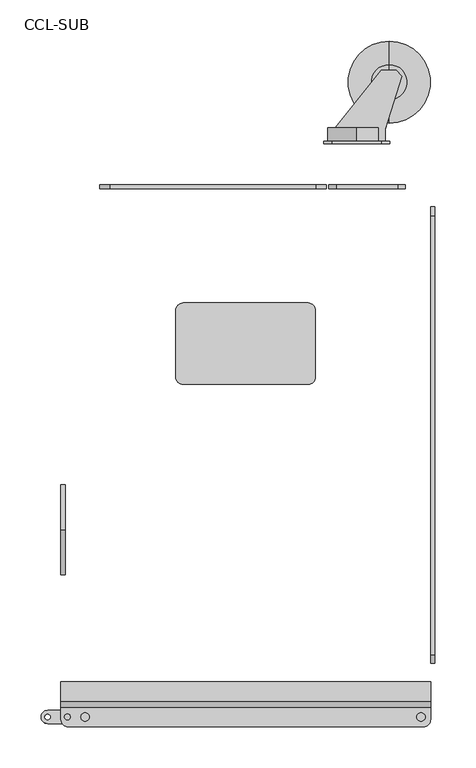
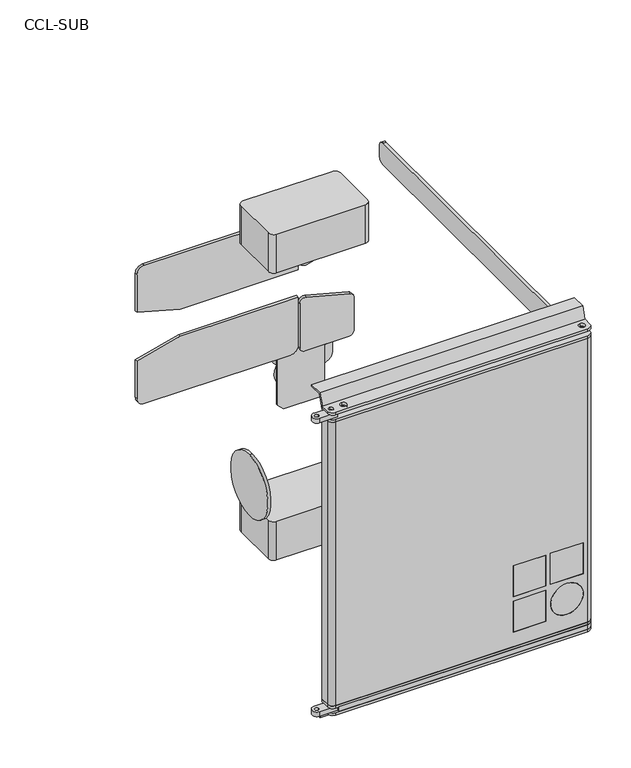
"""IFC4 building model written with IfcOpenShell, lengths in millimetres: proxy geometry, d&b CL-Series CCL-SUB : CCL-SUB."""

from ifc_helpers import new_model, si_unit, point, frame, frame_2d, origin, place, context, project, spatial, polyline, circle_curve, trimmed, segment, composite_curve, outline, extrude, source, transform, mapped, element, save
from ifc_brep_helpers import plane_surface, cylinder_surface, revolved_surface, advanced_brep


def ccl_sub_f0981f6c(model_context):
    return source(origin(), model_context, "Body", "SolidModel", [
        advanced_brep(
        [(2635.000038, 668.4505973, 104.6771383), (2635.000038, 668.4505973, 174.6771383), (2661.3818499, 668.4505973, 162.6771383), (2608.9218509, 668.4505973, 162.6771383), (2608.9218509, 668.4505973, 159.6771383), (2663.7228512, 668.4505973, 159.6771383), (2663.7228512, 668.4505973, 119.6771383), (2608.9218509, 668.4505973, 119.6771383), (2608.9218509, 668.4505973, 116.6771383), (2661.3818499, 668.4505973, 116.6771383), (2635.000038, 652.4505973, 174.6771383), (2635.000038, 652.4505973, 104.6771383), (2661.3818499, 652.4505973, 116.6771383), (2669.82476, 652.4505973, 116.6771383), (2669.82476, 652.4505973, 119.6771383), (2663.7228512, 652.4505973, 119.6771383), (2663.7228512, 652.4505973, 159.6771383), (2669.82476, 652.4505973, 159.6771383), (2669.82476, 652.4505973, 162.6771383), (2661.3818499, 652.4505973, 162.6771383), (2664.8735756, 738.6505973, 116.6771383), (2683.000038, 738.6505973, 116.6771383), (2690.000038, 731.6505973, 116.6771383), (2669.82476, 667.1505973, 116.6771383), (2669.82476, 667.1505973, 119.6771383), (2690.000038, 731.6505973, 119.6771383), (2683.000038, 738.6505973, 119.6771383), (2664.8735756, 738.6505973, 119.6771383), (2669.82476, 667.1505973, 162.6771383), (2690.000038, 731.6505973, 162.6771383), (2683.000038, 738.6505973, 162.6771383), (2664.8735756, 738.6505973, 162.6771383), (2664.8735756, 738.6505973, 159.6771383), (2683.000038, 738.6505973, 159.6771383), (2690.000038, 731.6505973, 159.6771383), (2669.82476, 667.1505973, 159.6771383)],
        [
            (0, 1, circle_curve(frame((2635.000038, 668.4505973, 139.6771383), z_axis=(0.0, 1.0, 0.0), x_axis=(0.0, 0.0, -1.0)), 35.0)),
            (1, 2, circle_curve(frame((2635.000038, 668.4505973, 139.6771383), z_axis=(0.0, 1.0, 0.0), x_axis=(0.0, 0.0, -1.0)), 35.0)),
            (2, 3),
            (3, 4),
            (4, 5),
            (5, 6, circle_curve(frame((2635.000038, 668.4505973, 139.6771383), z_axis=(0.0, 1.0, 0.0), x_axis=(0.0, 0.0, -1.0)), 35.0)),
            (6, 7),
            (7, 8),
            (8, 9),
            (9, 0, circle_curve(frame((2635.000038, 668.4505973, 139.6771383), z_axis=(0.0, 1.0, 0.0), x_axis=(0.0, 0.0, -1.0)), 35.0)),
            (10, 11, circle_curve(frame((2635.000038, 652.4505973, 139.6771383), z_axis=(0.0, -1.0, 0.0), x_axis=(0.0, 0.0, -1.0)), 35.0)),
            (11, 12, circle_curve(frame((2635.000038, 652.4505973, 139.6771383), z_axis=(0.0, -1.0, 0.0), x_axis=(0.0, 0.0, -1.0)), 35.0)),
            (12, 13),
            (13, 14),
            (14, 15),
            (15, 16, circle_curve(frame((2635.000038, 652.4505973, 139.6771383), z_axis=(0.0, -1.0, 0.0), x_axis=(0.0, 0.0, -1.0)), 35.0)),
            (16, 17),
            (17, 18),
            (18, 19),
            (19, 10, circle_curve(frame((2635.000038, 652.4505973, 139.6771383), z_axis=(0.0, -1.0, 0.0), x_axis=(0.0, 0.0, -1.0)), 35.0)),
            (1, 10),
            (19, 2),
            (15, 6),
            (5, 16),
            (11, 0),
            (9, 12),
            (8, 20),
            (20, 21),
            (21, 22),
            (22, 23),
            (23, 13),
            (14, 24),
            (24, 25),
            (25, 26),
            (26, 27),
            (27, 7),
            (27, 20),
            (26, 21),
            (25, 22),
            (24, 23),
            (18, 28),
            (28, 29),
            (29, 30),
            (30, 31),
            (31, 3),
            (4, 32),
            (32, 33),
            (33, 34),
            (34, 35),
            (35, 17),
            (31, 32),
            (30, 33),
            (29, 34),
            (28, 35),
        ],
        [
            plane_surface(frame((2635.000038, 668.4505973, 104.6771383), z_axis=(0.0, 1.0, 0.0), x_axis=(-1.0, 0.0, 0.0))),
            plane_surface(frame((2635.000038, 652.4505973, 104.6771383), z_axis=(0.0, -1.0, 0.0), x_axis=(1.0, 0.0, 0.0))),
            cylinder_surface(frame((2635.000038, 652.4505973, 139.6771383), z_axis=(0.0, 1.0, 0.0), x_axis=(0.0, 0.0, -1.0)), 35.0),
            plane_surface(frame((2651.8577772, 722.3202866, 116.6771383), z_axis=(0.0, 0.0, -1.0000000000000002), x_axis=(0.6232793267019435, 0.7819992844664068, 0.0))),
            plane_surface(frame((2651.8577772, 722.3202866, 119.6771383), z_axis=(0.0, 0.0, 1.0000000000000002), x_axis=(-0.6232793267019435, -0.7819992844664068, 0.0))),
            plane_surface(frame((2608.9218509, 668.4505973, 116.6771383), z_axis=(-0.7819992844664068, 0.6232793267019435, 0.0), x_axis=(0.0, 0.0, 1.0))),
            plane_surface(frame((2664.8735756, 738.6505973, 116.6771383), z_axis=(0.0, 1.0, 0.0), x_axis=(0.0, 0.0, 1.0))),
            plane_surface(frame((2683.000038, 738.6505973, 116.6771383), z_axis=(0.7071067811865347, 0.7071067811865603, 0.0), x_axis=(0.0, 0.0, 1.0))),
            plane_surface(frame((2690.000038, 731.6505973, 116.6771383), z_axis=(0.9543997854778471, -0.29853148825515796, 0.0), x_axis=(0.0, 0.0, 1.0))),
            plane_surface(frame((2669.82476, 667.1505973, 116.6771383), z_axis=(1.0, 0.0, 0.0), x_axis=(0.0, 0.0, 1.0))),
            plane_surface(frame((2608.9218509, 668.4505973, 162.6771383), z_axis=(0.0, 0.0, 1.0), x_axis=(0.0, -1.0, 0.0))),
            plane_surface(frame((2608.9218509, 668.4505973, 159.6771383), z_axis=(0.0, 0.0, -1.0), x_axis=(0.0, 1.0, 0.0))),
            plane_surface(frame((2664.8735756, 738.6505973, 162.6771383), z_axis=(-0.7819992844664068, 0.6232793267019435, 0.0), x_axis=(0.0, 0.0, -1.0))),
            plane_surface(frame((2683.000038, 738.6505973, 162.6771383), z_axis=(0.0, 1.0, 0.0), x_axis=(0.0, 0.0, -1.0))),
            plane_surface(frame((2690.000038, 731.6505973, 162.6771383), z_axis=(0.7071067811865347, 0.7071067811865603, 0.0), x_axis=(0.0, 0.0, -1.0))),
            plane_surface(frame((2669.82476, 667.1505973, 162.6771383), z_axis=(0.9543997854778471, -0.29853148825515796, 0.0), x_axis=(0.0, 0.0, -1.0))),
            plane_surface(frame((2669.82476, 652.4505973, 162.6771383), z_axis=(1.0, 0.0, 0.0), x_axis=(0.0, 0.0, -1.0))),
        ],
        [
            (0, [[1, 2, 3, 4, 5, 6, 7, 8, 9, 10]]),
            (1, [[11, 12, 13, 14, 15, 16, 17, 18, 19, 20]]),
            (2, [[21, -20, 22, -2]]),
            (2, [[23, -6, 24, -16]]),
            (2, [[25, -10, 26, -12]]),
            (2, [[-1, -25, -11, -21]]),
            (3, [[27, 28, 29, 30, 31, -13, -26, -9]]),
            (4, [[32, 33, 34, 35, 36, -7, -23, -15]]),
            (5, [[-27, -8, -36, 37]]),
            (6, [[-28, -37, -35, 38]]),
            (7, [[-29, -38, -34, 39]]),
            (8, [[-30, -39, -33, 40]]),
            (9, [[-31, -40, -32, -14]]),
            (10, [[41, 42, 43, 44, 45, -3, -22, -19]]),
            (11, [[46, 47, 48, 49, 50, -17, -24, -5]]),
            (12, [[-45, 51, -46, -4]]),
            (13, [[-44, 52, -47, -51]]),
            (14, [[-43, 53, -48, -52]]),
            (15, [[-42, 54, -49, -53]]),
            (16, [[-41, -18, -50, -54]]),
        ],
    ),
        extrude(outline(polyline([(182.1771003, 2595.0), (97.1771763, 2595.0), (87.1771383, 2605.000038), (87.1771383, 2665.000038), (97.1771763, 2675.000076), (182.1771003, 2675.000076), (192.1771383, 2665.000038), (192.1771383, 2605.000038), (182.1771003, 2595.0)])), frame((0.0, 649.4505973, 0.0), z_axis=(0.0, 1.0, 0.0), x_axis=(0.0, 0.0, 1.0)), (0.0, 0.0, 1.0), 3.0),
        advanced_brep(
        [(2674.5321133, 674.1067763, 123.0003805), (2674.5321133, 774.1067763, 123.0003805), (2674.5321133, 774.1067763, 156.3538961), (2674.5321133, 674.1067763, 156.3538961), (2674.5321133, 702.693179, 123.0003805), (2674.5321133, 745.5203735, 123.0003805), (2674.5321133, 702.693179, 119.6771383), (2674.5321133, 745.5203735, 119.6771383), (2674.5321133, 724.1067763, 119.6771383), (2674.5321133, 702.693179, 159.6771383), (2674.5321133, 745.5203735, 159.6771383), (2674.5321133, 724.1067763, 159.6771383), (2674.5321133, 702.693179, 156.3538961), (2674.5321133, 745.5203735, 156.3538961)],
        [
            (0, 1, circle_curve(frame((2674.5321133, 724.1067763, 123.0003805), z_axis=(0.0, 0.0, 1.0), x_axis=(0.0, 1.0, 0.0)), 50.0)),
            (1, 2),
            (2, 3, circle_curve(frame((2674.5321133, 724.1067763, 156.3538961), z_axis=(0.0, 0.0, -1.0), x_axis=(0.0, 1.0, 0.0)), 50.0)),
            (3, 0),
            (1, 0, circle_curve(frame((2674.5321133, 724.1067763, 123.0003805), z_axis=(0.0, 0.0, 1.0), x_axis=(0.0, 1.0, 0.0)), 50.0)),
            (3, 2, circle_curve(frame((2674.5321133, 724.1067763, 156.3538961), z_axis=(0.0, 0.0, -1.0), x_axis=(0.0, 1.0, 0.0)), 50.0)),
            (4, 5, circle_curve(frame((2674.5321133, 724.1067763, 123.0003805), z_axis=(0.0, 0.0, 1.0), x_axis=(0.0, 1.0, 0.0)), 21.4135972)),
            (5, 1),
            (0, 4),
            (5, 4, circle_curve(frame((2674.5321133, 724.1067763, 123.0003805), z_axis=(0.0, 0.0, 1.0), x_axis=(0.0, 1.0, 0.0)), 21.4135972)),
            (6, 7, circle_curve(frame((2674.5321133, 724.1067763, 119.6771383), z_axis=(0.0, 0.0, 1.0), x_axis=(0.0, 1.0, 0.0)), 21.4135972)),
            (7, 5),
            (4, 6),
            (7, 6, circle_curve(frame((2674.5321133, 724.1067763, 119.6771383), z_axis=(0.0, 0.0, 1.0), x_axis=(0.0, 1.0, 0.0)), 21.4135972)),
            (8, 7),
            (6, 8),
            (9, 10, circle_curve(frame((2674.5321133, 724.1067763, 159.6771383), z_axis=(0.0, 0.0, 1.0), x_axis=(0.0, 1.0, 0.0)), 21.4135972)),
            (10, 11),
            (11, 9),
            (10, 9, circle_curve(frame((2674.5321133, 724.1067763, 159.6771383), z_axis=(0.0, 0.0, 1.0), x_axis=(0.0, 1.0, 0.0)), 21.4135972)),
            (12, 13, circle_curve(frame((2674.5321133, 724.1067763, 156.3538961), z_axis=(0.0, 0.0, 1.0), x_axis=(0.0, 1.0, 0.0)), 21.4135972)),
            (13, 10),
            (9, 12),
            (13, 12, circle_curve(frame((2674.5321133, 724.1067763, 156.3538961), z_axis=(0.0, 0.0, 1.0), x_axis=(0.0, 1.0, 0.0)), 21.4135972)),
            (2, 13),
            (12, 3),
        ],
        [
            cylinder_surface(frame((2674.5321133, 724.1067763, 96.7338841), z_axis=(0.0, 0.0, -1.0), x_axis=(0.0, 1.0, 0.0)), 50.0),
            plane_surface(frame((2674.5321133, 724.1067763, 123.0003805), z_axis=(0.0, 0.0, -1.0), x_axis=(0.0, 1.0, 0.0))),
            cylinder_surface(frame((2674.5321133, 724.1067763, 96.7338841), z_axis=(0.0, 0.0, -1.0), x_axis=(0.0, 1.0, 0.0)), 21.4135972),
            plane_surface(frame((2674.5321133, 724.1067763, 119.6771383), z_axis=(0.0, 0.0, -1.0), x_axis=(0.0, 1.0, 0.0))),
            plane_surface(frame((2674.5321133, 724.1067763, 159.6771383), z_axis=(0.0, 0.0, 1.0), x_axis=(0.0, 1.0, 0.0))),
            plane_surface(frame((2674.5321133, 724.1067763, 156.3538961), z_axis=(0.0, 0.0, 1.0), x_axis=(0.0, 1.0, 0.0))),
        ],
        [
            (0, [[1, 2, 3, 4]]),
            (0, [[5, -4, 6, -2]]),
            (1, [[7, 8, -1, 9]]),
            (1, [[10, -9, -5, -8]]),
            (2, [[11, 12, -7, 13]]),
            (2, [[14, -13, -10, -12]]),
            (3, [[15, -11, 16]]),
            (3, [[-16, -14, -15]]),
            (4, [[17, 18, 19]]),
            (4, [[20, -19, -18]]),
            (2, [[21, 22, -17, 23]]),
            (2, [[24, -23, -20, -22]]),
            (5, [[-3, 25, -21, 26]]),
            (5, [[-6, -26, -24, -25]]),
        ],
    ),
        extrude(outline(composite_curve([segment(polyline([(2290.0, -40.7494027), (2290.0, -56.7494027), (2258.7, -56.7494027)]), True, "CONTINUOUS"), segment(trimmed(circle_curve(frame_2d((2258.7, -48.7494027)), 8.0), [point((2258.7, -56.7494027))], [point((2258.7, -40.7494027))], False, "CARTESIAN"), True, "CONTINUOUS"), segment(polyline([(2258.7, -40.7494027), (2290.0, -40.7494027)]), True, "CONTINUOUS")], self_intersect=False), holes=[composite_curve([segment(trimmed(circle_curve(frame_2d((2258.7, -48.7494027)), 3.25), [point((2261.95, -48.7494027))], [point((2255.45, -48.7494027))], True, "CARTESIAN"), True, "CONTINUOUS"), segment(trimmed(circle_curve(frame_2d((2258.7, -48.7494027)), 3.25), [point((2255.45, -48.7494027))], [point((2261.95, -48.7494027))], True, "CARTESIAN"), True, "CONTINUOUS")], self_intersect=False)]), frame((0.0, 0.0, 611.5), z_axis=(0.0, 0.0, 1.0), x_axis=(1.0, 0.0, 0.0)), (0.0, 0.0, 1.0), 8.0),
        extrude(outline(composite_curve([segment(polyline([(2716.0, -60.7494027), (2290.0, -60.7494027), (2290.0, -36.5494027), (2725.0, -36.5494027), (2725.0, -51.7494027)]), True, "CONTINUOUS"), segment(trimmed(circle_curve(frame_2d((2716.0, -51.7494027)), 9.0), [point((2725.0, -51.7494027))], [point((2716.0, -60.7494027))], False, "CARTESIAN"), True, "CONTINUOUS")], self_intersect=False), holes=[composite_curve([segment(trimmed(circle_curve(frame_2d((2713.2, -48.7494027)), 5.2), [point((2713.2, -53.9494027))], [point((2713.2, -43.5494027))], True, "CARTESIAN"), True, "CONTINUOUS"), segment(trimmed(circle_curve(frame_2d((2713.2, -48.7494027)), 5.2), [point((2713.2, -43.5494027))], [point((2713.2, -53.9494027))], True, "CARTESIAN"), True, "CONTINUOUS")], self_intersect=False)]), frame((0.0, 0.0, 80.5), z_axis=(0.0, 0.0, 1.0), x_axis=(1.0, 0.0, 0.0)), (0.0, 0.0, 1.0), 8.0),
        extrude(outline(composite_curve([segment(polyline([(2290.0, -40.7494027), (2290.0, -56.7494027), (2258.7, -56.7494027)]), True, "CONTINUOUS"), segment(trimmed(circle_curve(frame_2d((2258.7, -48.7494027)), 8.0), [point((2258.7, -56.7494027))], [point((2258.7, -40.7494027))], False, "CARTESIAN"), True, "CONTINUOUS"), segment(polyline([(2258.7, -40.7494027), (2290.0, -40.7494027)]), True, "CONTINUOUS")], self_intersect=False), holes=[composite_curve([segment(trimmed(circle_curve(frame_2d((2258.7, -48.7494027)), 3.25), [point((2261.95, -48.7494027))], [point((2255.45, -48.7494027))], True, "CARTESIAN"), True, "CONTINUOUS"), segment(trimmed(circle_curve(frame_2d((2258.7, -48.7494027)), 3.25), [point((2255.45, -48.7494027))], [point((2261.95, -48.7494027))], True, "CARTESIAN"), True, "CONTINUOUS")], self_intersect=False)]), frame((0.0, 0.0, 80.5), z_axis=(0.0, 0.0, 1.0), x_axis=(1.0, 0.0, 0.0)), (0.0, 0.0, 1.0), 8.0),
        extrude(outline(composite_curve([segment(polyline([(467.0, 2601.0), (388.0890284, 2601.0)]), True, "CONTINUOUS"), segment(trimmed(circle_curve(frame_2d((388.0890284, 2610.0)), 9.0), [point((388.0890284, 2601.0))], [point((379.3956959, 2612.3293714))], False, "CARTESIAN"), True, "CONTINUOUS"), segment(polyline([(379.3956959, 2612.3293714), (399.4918854, 2687.3293714)]), True, "CONTINUOUS"), segment(trimmed(circle_curve(frame_2d((408.1852178, 2685.0)), 9.0), [point((399.4918854, 2687.3293714))], [point((408.1852178, 2694.0))], False, "CARTESIAN"), True, "CONTINUOUS"), segment(polyline([(408.1852178, 2694.0), (467.0, 2694.0)]), True, "CONTINUOUS"), segment(trimmed(circle_curve(frame_2d((467.0, 2685.0)), 9.0), [point((467.0, 2694.0))], [point((476.0, 2685.0))], False, "CARTESIAN"), True, "CONTINUOUS"), segment(polyline([(476.0, 2685.0), (476.0, 2610.0)]), True, "CONTINUOUS"), segment(trimmed(circle_curve(frame_2d((467.0, 2610.0)), 9.0), [point((476.0, 2610.0))], [point((467.0, 2601.0))], False, "CARTESIAN"), True, "CONTINUOUS")], self_intersect=False)), frame((0.0, 594.4505973, 0.0), z_axis=(0.0, 1.0, 0.0), x_axis=(0.0, 0.0, 1.0)), (0.0, 0.0, 1.0), 5.0),
        extrude(outline(composite_curve([segment(trimmed(circle_curve(frame_2d((233.0, 2610.0)), 9.0), [point((233.0, 2601.0))], [point((224.0, 2610.0))], False, "CARTESIAN"), True, "CONTINUOUS"), segment(polyline([(224.0, 2610.0), (224.0, 2685.0)]), True, "CONTINUOUS"), segment(trimmed(circle_curve(frame_2d((233.0, 2685.0)), 9.0), [point((224.0, 2685.0))], [point((233.0, 2694.0))], False, "CARTESIAN"), True, "CONTINUOUS"), segment(polyline([(233.0, 2694.0), (291.8147822, 2694.0)]), True, "CONTINUOUS"), segment(trimmed(circle_curve(frame_2d((291.8147822, 2685.0)), 9.0), [point((291.8147822, 2694.0))], [point((300.5081146, 2687.3293714))], False, "CARTESIAN"), True, "CONTINUOUS"), segment(polyline([(300.5081146, 2687.3293714), (320.6043041, 2612.3293714)]), True, "CONTINUOUS"), segment(trimmed(circle_curve(frame_2d((311.9109716, 2610.0)), 9.0), [point((320.6043041, 2612.3293714))], [point((311.9109716, 2601.0))], False, "CARTESIAN"), True, "CONTINUOUS"), segment(polyline([(311.9109716, 2601.0), (233.0, 2601.0)]), True, "CONTINUOUS")], self_intersect=False)), frame((0.0, 594.4505973, 0.0), z_axis=(0.0, 1.0, 0.0), x_axis=(0.0, 0.0, 1.0)), (0.0, 0.0, 1.0), 5.0),
        extrude(outline(composite_curve([segment(trimmed(circle_curve(frame_2d((2423.8, 446.2505973)), 9.0), [point((2414.8, 446.2505973))], [point((2423.8, 455.2505973))], False, "CARTESIAN"), True, "CONTINUOUS"), segment(polyline([(2423.8, 455.2505973), (2575.8, 455.2505973)]), True, "CONTINUOUS"), segment(trimmed(circle_curve(frame_2d((2575.8, 446.2505973)), 9.0), [point((2575.8, 455.2505973))], [point((2584.8, 446.2505973))], False, "CARTESIAN"), True, "CONTINUOUS"), segment(polyline([(2584.8, 446.2505973), (2584.8, 365.2505973)]), True, "CONTINUOUS"), segment(trimmed(circle_curve(frame_2d((2575.8, 365.2505973)), 9.0), [point((2584.8, 365.2505973))], [point((2575.8, 356.2505973))], False, "CARTESIAN"), True, "CONTINUOUS"), segment(polyline([(2575.8, 356.2505973), (2423.8, 356.2505973)]), True, "CONTINUOUS"), segment(trimmed(circle_curve(frame_2d((2423.8, 365.2505973)), 9.0), [point((2423.8, 356.2505973))], [point((2414.8, 365.2505973))], False, "CARTESIAN"), True, "CONTINUOUS"), segment(polyline([(2414.8, 365.2505973), (2414.8, 446.2505973)]), True, "CONTINUOUS")], self_intersect=False)), frame((0.0, 0.0, 55.0), z_axis=(0.0, 0.0, 1.0), x_axis=(1.0, 0.0, 0.0)), (0.0, 0.0, 1.0), 70.0),
        extrude(outline(composite_curve([segment(trimmed(circle_curve(frame_2d((2423.8, 446.2505973)), 9.0), [point((2414.8, 446.2505973))], [point((2423.8, 455.2505973))], False, "CARTESIAN"), True, "CONTINUOUS"), segment(polyline([(2423.8, 455.2505973), (2575.8, 455.2505973)]), True, "CONTINUOUS"), segment(trimmed(circle_curve(frame_2d((2575.8, 446.2505973)), 9.0), [point((2575.8, 455.2505973))], [point((2584.8, 446.2505973))], False, "CARTESIAN"), True, "CONTINUOUS"), segment(polyline([(2584.8, 446.2505973), (2584.8, 365.2505973)]), True, "CONTINUOUS"), segment(trimmed(circle_curve(frame_2d((2575.8, 365.2505973)), 9.0), [point((2584.8, 365.2505973))], [point((2575.8, 356.2505973))], False, "CARTESIAN"), True, "CONTINUOUS"), segment(polyline([(2575.8, 356.2505973), (2423.8, 356.2505973)]), True, "CONTINUOUS"), segment(trimmed(circle_curve(frame_2d((2423.8, 365.2505973)), 9.0), [point((2423.8, 356.2505973))], [point((2414.8, 365.2505973))], False, "CARTESIAN"), True, "CONTINUOUS"), segment(polyline([(2414.8, 365.2505973), (2414.8, 446.2505973)]), True, "CONTINUOUS")], self_intersect=False)), frame((0.0, 0.0, 575.0), z_axis=(0.0, 0.0, 1.0), x_axis=(1.0, 0.0, 0.0)), (0.0, 0.0, 1.0), 70.0),
        extrude(outline(composite_curve([segment(polyline([(2716.0, -60.7494027), (2284.0, -60.7494027)]), True, "CONTINUOUS"), segment(trimmed(circle_curve(frame_2d((2284.0, -51.7494027)), 9.0), [point((2284.0, -60.7494027))], [point((2275.0, -51.7494027))], False, "CARTESIAN"), True, "CONTINUOUS"), segment(polyline([(2275.0, -51.7494027), (2275.0, -36.5494027), (2725.0, -36.5494027), (2725.0, -51.7494027)]), True, "CONTINUOUS"), segment(trimmed(circle_curve(frame_2d((2716.0, -51.7494027)), 9.0), [point((2725.0, -51.7494027))], [point((2716.0, -60.7494027))], False, "CARTESIAN"), True, "CONTINUOUS")], self_intersect=False)), frame((0.0, 0.0, 607.0), z_axis=(0.0, 0.0, 1.0), x_axis=(1.0, 0.0, 0.0)), (0.0, 0.0, 1.0), 4.5),
        extrude(outline(composite_curve([segment(polyline([(2716.0, -60.7494027), (2284.0, -60.7494027)]), True, "CONTINUOUS"), segment(trimmed(circle_curve(frame_2d((2284.0, -51.7494027)), 9.0), [point((2284.0, -60.7494027))], [point((2275.0, -51.7494027))], False, "CARTESIAN"), True, "CONTINUOUS"), segment(polyline([(2275.0, -51.7494027), (2275.0, -36.5494027), (2725.0, -36.5494027), (2725.0, -51.7494027)]), True, "CONTINUOUS"), segment(trimmed(circle_curve(frame_2d((2716.0, -51.7494027)), 9.0), [point((2725.0, -51.7494027))], [point((2716.0, -60.7494027))], False, "CARTESIAN"), True, "CONTINUOUS")], self_intersect=False), holes=[composite_curve([segment(trimmed(circle_curve(frame_2d((2304.3, -48.7494027)), 5.2), [point((2304.3, -53.9494027))], [point((2304.3, -43.5494027))], True, "CARTESIAN"), True, "CONTINUOUS"), segment(trimmed(circle_curve(frame_2d((2304.3, -48.7494027)), 5.2), [point((2304.3, -43.5494027))], [point((2304.3, -53.9494027))], True, "CARTESIAN"), True, "CONTINUOUS")], self_intersect=False), composite_curve([segment(trimmed(circle_curve(frame_2d((2282.8, -48.7494027)), 3.65), [point((2282.8, -52.3994027))], [point((2282.8, -45.0994027))], True, "CARTESIAN"), True, "CONTINUOUS"), segment(trimmed(circle_curve(frame_2d((2282.8, -48.7494027)), 3.65), [point((2282.8, -45.0994027))], [point((2282.8, -52.3994027))], True, "CARTESIAN"), True, "CONTINUOUS")], self_intersect=False), composite_curve([segment(trimmed(circle_curve(frame_2d((2713.2, -48.7494027)), 5.2), [point((2713.2, -53.9494027))], [point((2713.2, -43.5494027))], True, "CARTESIAN"), True, "CONTINUOUS"), segment(trimmed(circle_curve(frame_2d((2713.2, -48.7494027)), 5.2), [point((2713.2, -43.5494027))], [point((2713.2, -53.9494027))], True, "CARTESIAN"), True, "CONTINUOUS")], self_intersect=False)]), frame((0.0, 0.0, 619.5), z_axis=(0.0, 0.0, 1.0), x_axis=(1.0, 0.0, 0.0)), (0.0, 0.0, 1.0), 4.5),
        extrude(outline(composite_curve([segment(polyline([(2716.0, -60.7494027), (2284.0, -60.7494027)]), True, "CONTINUOUS"), segment(trimmed(circle_curve(frame_2d((2284.0, -51.7494027)), 9.0), [point((2284.0, -60.7494027))], [point((2275.0, -51.7494027))], False, "CARTESIAN"), True, "CONTINUOUS"), segment(polyline([(2275.0, -51.7494027), (2275.0, -36.5494027), (2725.0, -36.5494027), (2725.0, -51.7494027)]), True, "CONTINUOUS"), segment(trimmed(circle_curve(frame_2d((2716.0, -51.7494027)), 9.0), [point((2725.0, -51.7494027))], [point((2716.0, -60.7494027))], False, "CARTESIAN"), True, "CONTINUOUS")], self_intersect=False)), frame((0.0, 0.0, 88.5), z_axis=(0.0, 0.0, 1.0), x_axis=(1.0, 0.0, 0.0)), (0.0, 0.0, 1.0), 4.5),
        extrude(outline(composite_curve([segment(polyline([(2716.0, -60.7494027), (2284.0, -60.7494027)]), True, "CONTINUOUS"), segment(trimmed(circle_curve(frame_2d((2284.0, -51.7494027)), 9.0), [point((2284.0, -60.7494027))], [point((2275.0, -51.7494027))], False, "CARTESIAN"), True, "CONTINUOUS"), segment(polyline([(2275.0, -51.7494027), (2275.0, -36.5494027), (2725.0, -36.5494027), (2725.0, -51.7494027)]), True, "CONTINUOUS"), segment(trimmed(circle_curve(frame_2d((2716.0, -51.7494027)), 9.0), [point((2725.0, -51.7494027))], [point((2716.0, -60.7494027))], False, "CARTESIAN"), True, "CONTINUOUS")], self_intersect=False), holes=[composite_curve([segment(trimmed(circle_curve(frame_2d((2713.2, -48.7494027)), 5.2), [point((2713.2, -53.9494027))], [point((2713.2, -43.5494027))], True, "CARTESIAN"), True, "CONTINUOUS"), segment(trimmed(circle_curve(frame_2d((2713.2, -48.7494027)), 5.2), [point((2713.2, -43.5494027))], [point((2713.2, -53.9494027))], True, "CARTESIAN"), True, "CONTINUOUS")], self_intersect=False), composite_curve([segment(trimmed(circle_curve(frame_2d((2304.3, -48.7494027)), 5.2), [point((2304.3, -53.9494027))], [point((2304.3, -43.5494027))], True, "CARTESIAN"), True, "CONTINUOUS"), segment(trimmed(circle_curve(frame_2d((2304.3, -48.7494027)), 5.2), [point((2304.3, -43.5494027))], [point((2304.3, -53.9494027))], True, "CARTESIAN"), True, "CONTINUOUS")], self_intersect=False), composite_curve([segment(trimmed(circle_curve(frame_2d((2282.8, -48.7494027)), 3.65), [point((2282.8, -52.3994027))], [point((2282.8, -45.0994027))], True, "CARTESIAN"), True, "CONTINUOUS"), segment(trimmed(circle_curve(frame_2d((2282.8, -48.7494027)), 3.65), [point((2282.8, -45.0994027))], [point((2282.8, -52.3994027))], True, "CARTESIAN"), True, "CONTINUOUS")], self_intersect=False)]), frame((0.0, 0.0, 76.0), z_axis=(0.0, 0.0, 1.0), x_axis=(1.0, 0.0, 0.0)), (0.0, 0.0, 1.0), 4.5),
        extrude(outline(polyline([(-5.5494027, 59.0), (-5.5494027, 56.0), (-30.269998, 56.0), (-37.5494027, 76.0), (-36.5494027, 76.0), (-36.5494027, 82.0239358), (-28.1693754, 59.0), (-5.5494027, 59.0)])), frame((2275.0, 0.0, 0.0), z_axis=(1.0, 0.0, 0.0), x_axis=(0.0, 1.0, 0.0)), (0.0, 0.0, 1.0), 450.0),
        extrude(outline(polyline([(-5.5494027, 641.0), (-28.1693754, 641.0), (-36.5494027, 617.9760642), (-36.5494027, 624.0), (-37.5494027, 624.0), (-30.269998, 644.0), (-5.5494027, 644.0), (-5.5494027, 641.0)])), frame((2275.0, 0.0, 0.0), z_axis=(1.0, 0.0, 0.0), x_axis=(0.0, 1.0, 0.0)), (0.0, 0.0, 1.0), 450.0),
        advanced_brep(
        [(2716.0, -60.7494027, 607.0), (2725.0, -51.7494027, 607.0), (2725.0, -36.5494027, 607.0), (2275.0, -36.5494027, 607.0), (2275.0, -51.7494027, 607.0), (2284.0, -60.7494027, 607.0), (2716.0, -60.7494027, 93.0), (2284.0, -60.7494027, 93.0), (2275.0, -51.7494027, 93.0), (2275.0, -36.5494027, 93.0), (2725.0, -36.5494027, 93.0), (2725.0, -51.7494027, 93.0), (2588.5, -60.7494027, 175.5), (2644.5, -60.7494027, 175.5), (2644.5, -60.7494027, 119.5), (2588.5, -60.7494027, 119.5), (2588.5, -60.7494027, 239.5), (2644.5, -60.7494027, 239.5), (2644.5, -60.7494027, 183.5), (2588.5, -60.7494027, 183.5), (2652.5, -60.7494027, 239.5), (2708.5, -60.7494027, 239.5), (2708.5, -60.7494027, 183.5), (2652.5, -60.7494027, 183.5), (2680.5, -60.7494027, 119.5), (2680.5, -60.7494027, 175.5), (2588.5, -50.7494027, 175.5), (2588.5, -50.7494027, 119.5), (2644.5, -50.7494027, 119.5), (2644.5, -50.7494027, 175.5), (2588.5, -50.7494027, 239.5), (2588.5, -50.7494027, 183.5), (2644.5, -50.7494027, 183.5), (2644.5, -50.7494027, 239.5), (2652.5, -50.7494027, 239.5), (2652.5, -50.7494027, 183.5), (2708.5, -50.7494027, 183.5), (2708.5, -50.7494027, 239.5), (2680.5, -50.7494027, 119.5), (2680.5, -50.7494027, 175.5)],
        [
            (0, 1, circle_curve(frame((2716.0, -51.7494027, 607.0), z_axis=(0.0, 0.0, 1.0), x_axis=(0.0, -1.0, 0.0)), 9.0)),
            (1, 2),
            (2, 3),
            (3, 4),
            (4, 5, circle_curve(frame((2284.0, -51.7494027, 607.0), z_axis=(0.0, 0.0, 1.0), x_axis=(0.0, -1.0, 0.0)), 9.0)),
            (5, 0),
            (6, 7),
            (7, 8, circle_curve(frame((2284.0, -51.7494027, 93.0), z_axis=(0.0, 0.0, -1.0), x_axis=(0.0, -1.0, 0.0)), 9.0)),
            (8, 9),
            (9, 10),
            (10, 11),
            (11, 6, circle_curve(frame((2716.0, -51.7494027, 93.0), z_axis=(0.0, 0.0, -1.0), x_axis=(0.0, -1.0, 0.0)), 9.0)),
            (0, 6),
            (11, 1),
            (10, 2),
            (9, 3),
            (8, 4),
            (7, 5),
            (12, 13),
            (13, 14),
            (14, 15),
            (15, 12),
            (16, 17),
            (17, 18),
            (18, 19),
            (19, 16),
            (20, 21),
            (21, 22),
            (22, 23),
            (23, 20),
            (24, 25, circle_curve(frame((2680.5, -60.7494027, 147.5), z_axis=(0.0, 1.0, 0.0), x_axis=(0.0, 0.0, 1.0)), 28.0)),
            (25, 24, circle_curve(frame((2680.5, -60.7494027, 147.5), z_axis=(0.0, 1.0, 0.0), x_axis=(0.0, 0.0, 1.0)), 28.0)),
            (26, 27),
            (27, 28),
            (28, 29),
            (29, 26),
            (30, 31),
            (31, 32),
            (32, 33),
            (33, 30),
            (34, 35),
            (35, 36),
            (36, 37),
            (37, 34),
            (38, 39, circle_curve(frame((2680.5, -50.7494027, 147.5), z_axis=(0.0, -1.0, 0.0), x_axis=(0.0, 0.0, 1.0)), 28.0)),
            (39, 38, circle_curve(frame((2680.5, -50.7494027, 147.5), z_axis=(0.0, -1.0, 0.0), x_axis=(0.0, 0.0, 1.0)), 28.0)),
            (29, 13),
            (12, 26),
            (28, 14),
            (27, 15),
            (33, 17),
            (16, 30),
            (32, 18),
            (31, 19),
            (37, 21),
            (20, 34),
            (36, 22),
            (35, 23),
            (39, 25),
            (24, 38),
        ],
        [
            plane_surface(frame((2716.0, -60.7494027, 607.0), z_axis=(0.0, 0.0, 1.0), x_axis=(1.0, 0.0, 0.0))),
            plane_surface(frame((2716.0, -60.7494027, 93.0), z_axis=(0.0, 0.0, -1.0), x_axis=(-1.0, 0.0, 0.0))),
            cylinder_surface(frame((2716.0, -51.7494027, 93.0), z_axis=(0.0, 0.0, 1.0), x_axis=(0.0, -1.0, 0.0)), 9.0),
            plane_surface(frame((2725.0, -51.7494027, 607.0), z_axis=(1.0, 0.0, 0.0), x_axis=(0.0, 0.0, -1.0))),
            plane_surface(frame((2725.0, -36.5494027, 607.0), z_axis=(0.0, 1.0, 0.0), x_axis=(0.0, 0.0, -1.0))),
            plane_surface(frame((2275.0, -36.5494027, 607.0), z_axis=(-1.0, 0.0, 0.0), x_axis=(0.0, 0.0, -1.0))),
            cylinder_surface(frame((2284.0, -51.7494027, 93.0), z_axis=(0.0, 0.0, 1.0), x_axis=(0.0, -1.0, 0.0)), 9.0),
            plane_surface(frame((2284.0, -60.7494027, 607.0), z_axis=(0.0, -1.0, 0.0), x_axis=(0.0, 0.0, -1.0))),
            plane_surface(frame((2599.0, -50.7494027, 175.5), z_axis=(0.0, -1.0, 0.0), x_axis=(1.0, 0.0, 0.0))),
            plane_surface(frame((2588.5, -50.7494027, 175.5), z_axis=(0.0, 0.0, -1.0), x_axis=(0.0, -1.0, 0.0))),
            plane_surface(frame((2644.5, -50.7494027, 175.5), z_axis=(-1.0, 0.0, 0.0), x_axis=(0.0, -1.0, 0.0))),
            plane_surface(frame((2644.5, -50.7494027, 119.5), z_axis=(0.0, 0.0, 1.0), x_axis=(0.0, -1.0, 0.0))),
            plane_surface(frame((2588.5, -50.7494027, 119.5), z_axis=(1.0, 0.0, 0.0), x_axis=(0.0, -1.0, 0.0))),
            plane_surface(frame((2588.5, -50.7494027, 239.5), z_axis=(0.0, 0.0, -1.0), x_axis=(0.0, -1.0, 0.0))),
            plane_surface(frame((2644.5, -50.7494027, 239.5), z_axis=(-1.0, 0.0, 0.0), x_axis=(0.0, -1.0, 0.0))),
            plane_surface(frame((2644.5, -50.7494027, 183.5), z_axis=(0.0, 0.0, 1.0), x_axis=(0.0, -1.0, 0.0))),
            plane_surface(frame((2588.5, -50.7494027, 183.5), z_axis=(1.0, 0.0, 0.0), x_axis=(0.0, -1.0, 0.0))),
            plane_surface(frame((2652.5, -50.7494027, 239.5), z_axis=(0.0, 0.0, -1.0), x_axis=(0.0, -1.0, 0.0))),
            plane_surface(frame((2708.5, -50.7494027, 239.5), z_axis=(-1.0, 0.0, 0.0), x_axis=(0.0, -1.0, 0.0))),
            plane_surface(frame((2708.5, -50.7494027, 183.5), z_axis=(0.0, 0.0, 1.0), x_axis=(0.0, -1.0, 0.0))),
            plane_surface(frame((2652.5, -50.7494027, 183.5), z_axis=(1.0, 0.0, 0.0), x_axis=(0.0, -1.0, 0.0))),
            revolved_surface(polyline([(2680.5, -50.7494027, 175.5), (2680.5, -60.7494027, 175.5)]), (2680.5, -60.7494027, 147.5), (0.0, 1.0, 0.0)),
        ],
        [
            (0, [[1, 2, 3, 4, 5, 6]]),
            (1, [[7, 8, 9, 10, 11, 12]]),
            (2, [[-1, 13, -12, 14]]),
            (3, [[-2, -14, -11, 15]]),
            (4, [[-3, -15, -10, 16]]),
            (5, [[-4, -16, -9, 17]]),
            (6, [[-5, -17, -8, 18]]),
            (7, [[-6, -18, -7, -13], [19, 20, 21, 22], [23, 24, 25, 26], [27, 28, 29, 30], [31, 32]]),
            (8, [[33, 34, 35, 36]]),
            (8, [[37, 38, 39, 40]]),
            (8, [[41, 42, 43, 44]]),
            (8, [[45, 46]]),
            (9, [[-36, 47, -19, 48]]),
            (10, [[-35, 49, -20, -47]]),
            (11, [[-34, 50, -21, -49]]),
            (12, [[-33, -48, -22, -50]]),
            (13, [[-40, 51, -23, 52]]),
            (14, [[-39, 53, -24, -51]]),
            (15, [[-38, 54, -25, -53]]),
            (16, [[-37, -52, -26, -54]]),
            (17, [[-44, 55, -27, 56]]),
            (18, [[-43, 57, -28, -55]]),
            (19, [[-42, 58, -29, -57]]),
            (20, [[-41, -56, -30, -58]]),
            (21, [[-46, 59, -31, 60]]),
            (21, [[-45, -60, -32, -59]]),
        ],
    ),
        extrude(outline(composite_curve([segment(trimmed(circle_curve(frame_2d((179.4505973, 350.0)), 55.0), [point((179.4505973, 295.0))], [point((179.4505973, 405.0))], False, "CARTESIAN"), True, "CONTINUOUS"), segment(trimmed(circle_curve(frame_2d((179.4505973, 350.0)), 55.0), [point((179.4505973, 405.0))], [point((179.4505973, 295.0))], False, "CARTESIAN"), True, "CONTINUOUS")], self_intersect=False)), frame((2275.0, 0.0, 0.0), z_axis=(1.0, 0.0, 0.0), x_axis=(0.0, 1.0, 0.0)), (0.0, 0.0, 1.0), 5.0),
        extrude(outline(composite_curve([segment(trimmed(circle_curve(frame_2d((462.0, 2335.0)), 13.0), [point((475.0, 2335.0))], [point((462.0, 2322.0))], False, "CARTESIAN"), True, "CONTINUOUS"), segment(polyline([(462.0, 2322.0), (394.3424624, 2322.0), (374.5518543, 2395.8595546), (374.5518543, 2598.0), (462.0, 2598.0)]), True, "CONTINUOUS"), segment(trimmed(circle_curve(frame_2d((462.0, 2585.0)), 13.0), [point((462.0, 2598.0))], [point((475.0, 2585.0))], False, "CARTESIAN"), True, "CONTINUOUS"), segment(polyline([(475.0, 2585.0), (475.0, 2335.0)]), True, "CONTINUOUS")], self_intersect=False)), frame((0.0, 594.4505973, 0.0), z_axis=(0.0, 1.0, 0.0), x_axis=(0.0, 0.0, 1.0)), (0.0, 0.0, 1.0), 5.0),
        extrude(outline(composite_curve([segment(polyline([(225.0, 2335.0), (225.0, 2585.0)]), True, "CONTINUOUS"), segment(trimmed(circle_curve(frame_2d((238.0, 2585.0)), 13.0), [point((225.0, 2585.0))], [point((238.0, 2598.0))], False, "CARTESIAN"), True, "CONTINUOUS"), segment(polyline([(238.0, 2598.0), (325.4481457, 2598.0), (325.4481457, 2395.8595546), (305.6575376, 2322.0), (238.0, 2322.0)]), True, "CONTINUOUS"), segment(trimmed(circle_curve(frame_2d((238.0, 2335.0)), 13.0), [point((238.0, 2322.0))], [point((225.0, 2335.0))], False, "CARTESIAN"), True, "CONTINUOUS")], self_intersect=False)), frame((0.0, 594.4505973, 0.0), z_axis=(0.0, 1.0, 0.0), x_axis=(0.0, 0.0, 1.0)), (0.0, 0.0, 1.0), 5.0),
        extrude(outline(composite_curve([segment(polyline([(572.2505973, 149.3), (572.2505973, 130.7)]), True, "CONTINUOUS"), segment(trimmed(circle_curve(frame_2d((561.7505973, 130.7)), 10.5), [point((572.2505973, 130.7))], [point((561.7505973, 120.2))], False, "CARTESIAN"), True, "CONTINUOUS"), segment(polyline([(561.7505973, 120.2), (27.1505973, 120.2)]), True, "CONTINUOUS"), segment(trimmed(circle_curve(frame_2d((27.1505973, 130.7)), 10.5), [point((27.1505973, 120.2))], [point((16.6505973, 130.7))], False, "CARTESIAN"), True, "CONTINUOUS"), segment(polyline([(16.6505973, 130.7), (16.6505973, 149.3)]), True, "CONTINUOUS"), segment(trimmed(circle_curve(frame_2d((27.1505973, 149.3)), 10.5), [point((16.6505973, 149.3))], [point((27.1505973, 159.8))], False, "CARTESIAN"), True, "CONTINUOUS"), segment(polyline([(27.1505973, 159.8), (561.7505973, 159.8)]), True, "CONTINUOUS"), segment(trimmed(circle_curve(frame_2d((561.7505973, 149.3)), 10.5), [point((561.7505973, 159.8))], [point((572.2505973, 149.3))], False, "CARTESIAN"), True, "CONTINUOUS")], self_intersect=False)), frame((2725.0, 0.0, 0.0), z_axis=(1.0, 0.0, 0.0), x_axis=(0.0, 1.0, 0.0)), (0.0, 0.0, 1.0), 5.0),
        extrude(outline(composite_curve([segment(trimmed(circle_curve(frame_2d((561.7505973, 550.7)), 10.5), [point((572.2505973, 550.7))], [point((561.7505973, 540.2))], False, "CARTESIAN"), True, "CONTINUOUS"), segment(polyline([(561.7505973, 540.2), (27.1505973, 540.2)]), True, "CONTINUOUS"), segment(trimmed(circle_curve(frame_2d((27.1505973, 550.7)), 10.5), [point((27.1505973, 540.2))], [point((16.6505973, 550.7))], False, "CARTESIAN"), True, "CONTINUOUS"), segment(polyline([(16.6505973, 550.7), (16.6505973, 569.3)]), True, "CONTINUOUS"), segment(trimmed(circle_curve(frame_2d((27.1505973, 569.3)), 10.5), [point((16.6505973, 569.3))], [point((27.1505973, 579.8))], False, "CARTESIAN"), True, "CONTINUOUS"), segment(polyline([(27.1505973, 579.8), (561.7505973, 579.8)]), True, "CONTINUOUS"), segment(trimmed(circle_curve(frame_2d((561.7505973, 569.3)), 10.5), [point((561.7505973, 579.8))], [point((572.2505973, 569.3))], False, "CARTESIAN"), True, "CONTINUOUS"), segment(polyline([(572.2505973, 569.3), (572.2505973, 550.7)]), True, "CONTINUOUS")], self_intersect=False)), frame((2725.0, 0.0, 0.0), z_axis=(1.0, 0.0, 0.0), x_axis=(0.0, 1.0, 0.0)), (0.0, 0.0, 1.0), 5.0),
        extrude(outline(polyline([(2588.5, -50.7494027), (2644.5, -50.7494027), (2644.5, -60.7494027), (2588.5, -60.7494027), (2588.5, -50.7494027)])), frame((0.0, 0.0, 119.5), z_axis=(0.0, 0.0, 1.0), x_axis=(1.0, 0.0, 0.0)), (0.0, 0.0, 1.0), 56.0),
        extrude(outline(polyline([(2588.5, -50.7494027), (2644.5, -50.7494027), (2644.5, -60.7494027), (2588.5, -60.7494027), (2588.5, -50.7494027)])), frame((0.0, 0.0, 183.5), z_axis=(0.0, 0.0, 1.0), x_axis=(1.0, 0.0, 0.0)), (0.0, 0.0, 1.0), 56.0),
        extrude(outline(polyline([(2652.5, -50.7494027), (2708.5, -50.7494027), (2708.5, -60.7494027), (2652.5, -60.7494027), (2652.5, -50.7494027)])), frame((0.0, 0.0, 183.5), z_axis=(0.0, 0.0, 1.0), x_axis=(1.0, 0.0, 0.0)), (0.0, 0.0, 1.0), 56.0),
        extrude(outline(composite_curve([segment(trimmed(circle_curve(frame_2d((147.5, 2680.5)), 28.0), [point((119.5, 2680.5))], [point((175.5, 2680.5))], False, "CARTESIAN"), True, "CONTINUOUS"), segment(trimmed(circle_curve(frame_2d((147.5, 2680.5)), 28.0), [point((175.5, 2680.5))], [point((119.5, 2680.5))], False, "CARTESIAN"), True, "CONTINUOUS")], self_intersect=False)), frame((0.0, -60.7494027, 0.0), z_axis=(0.0, 1.0, 0.0), x_axis=(0.0, 0.0, 1.0)), (0.0, 0.0, 1.0), 10.0),
    ])


if __name__ == "__main__":
    model = new_model("IFC4")
    model_context = context("Model", 3, world=origin())
    ifc_project = project(units=[si_unit("LENGTHUNIT", "METRE", prefix="MILLI")], contexts=[model_context])
    site = spatial("IfcSite", under=ifc_project)
    building = spatial("IfcBuilding", under=site)
    placement = place(None, origin())
    ccl_sub_shape = ccl_sub_f0981f6c(model_context)
    element("IfcBuildingElementProxy", 1, Name="d&b CL-Series CCL-SUB : CCL-SUB", ObjectType="d&b CL-Series CCL-SUB : CCL-SUB", at=placement, inside=building, context=model_context, shape_type="MappedRepresentation", body=[
        mapped(ccl_sub_shape, transform((0.0, 0.0, 0.0), x_axis=(1.0, 0.0, 0.0), y_axis=(0.0, 1.0, 0.0), z_axis=(0.0, 0.0, 1.0))),
    ])
    save(model, "model.ifc")
